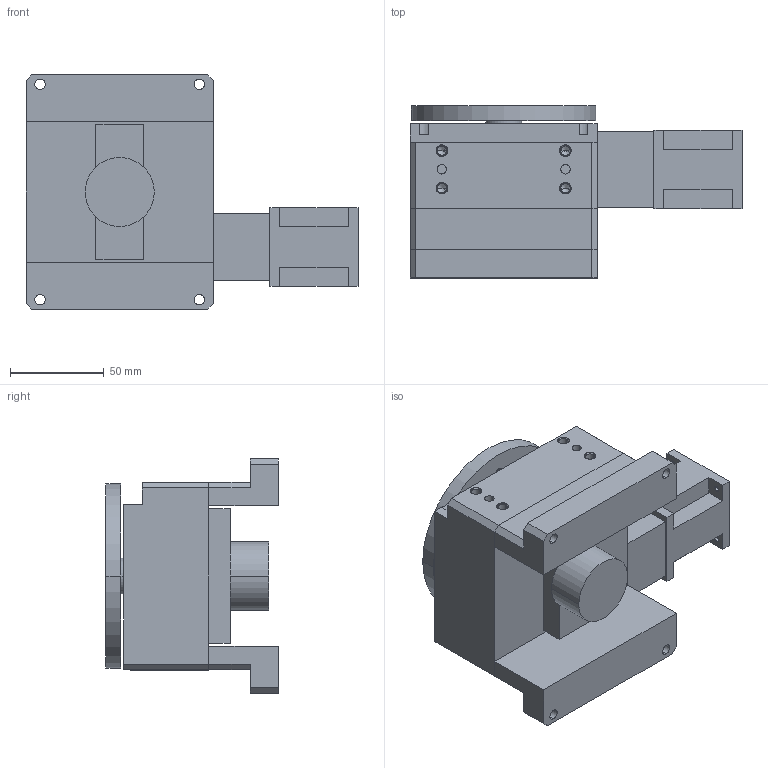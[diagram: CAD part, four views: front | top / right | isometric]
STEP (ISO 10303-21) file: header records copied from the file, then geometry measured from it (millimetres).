
FILE_DESCRIPTION((''),'2;1');
FILE_NAME('R100M6M16E1_ASM','2009-07-02T',('FK20128'),(''),'PRO/ENGINEER BY PARAMETRIC TECHNOLOGY CORPORATION, 2006200','PRO/ENGINEER BY PARAMETRIC TECHNOLOGY CORPORATION, 2006200','');
FILE_SCHEMA(('CONFIG_CONTROL_DESIGN'));
Length unit declared in the file: millimetre
Products named in the file (7): R100M; R100M-M16; R100M-ENCODER-BRKT; RXXXM-ENCODER; R100M-ENCODER-STANDOFF; R100M-E1_ASM; R100M6M16E1_ASM
Assembly tree (7 placements, depth 3):
  R100M6M16E1_ASM
    R100M
    R100M-M16
    R100M-E1_ASM
      R100M-ENCODER-BRKT
      RXXXM-ENCODER
      R100M-ENCODER-STANDOFF  x2
Bounding box: 177.15 x 92.01 x 125 mm (x, y, z)
Volume: 755001.9 mm3; surface area: 125456.4 mm2
Topology: 6 solids, 28 shells, 293 faces, 728 edges, 486 vertices
Faces by surface type: cylinder 152, plane 119, cone 22
Entity records: 8225 total; most frequent: DIRECTION 1554, CARTESIAN_POINT 1373, ORIENTED_EDGE 1212, EDGE_CURVE 646, AXIS2_PLACEMENT_3D 619, VERTEX_POINT 438, EDGE_LOOP 354, CIRCLE 330
